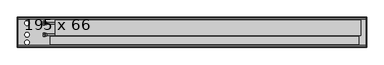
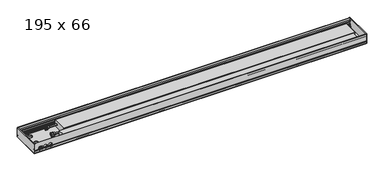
"""IFC4 building model written with IfcOpenShell, lengths in millimetres: proxy geometry, Mohlenhof_Внутрипольный конвектор_QSKM : 195 x 66."""

from ifc_helpers import new_model, si_unit, point, frame, frame_2d, origin, place, context, project, spatial, polyline, circle_curve, ellipse_curve, trimmed, segment, composite_curve, outline, extrude, source, transform, mapped, element, save
from ifc_brep_helpers import plane_surface, cylinder_surface, revolved_surface, advanced_brep


def proxy_195_x_66_aa6f77ee(model_context):
    return source(origin(), model_context, "Body", "SolidModel", [
        extrude(outline(composite_curve([segment(trimmed(circle_curve(frame_2d((0.0, -273.5)), 4.5), [point((-4.5, -273.5))], [point((4.5, -273.5))], False, "CARTESIAN"), True, "CONTINUOUS"), segment(trimmed(circle_curve(frame_2d((0.0, -273.5)), 4.5), [point((4.5, -273.5))], [point((-4.5, -273.5))], False, "CARTESIAN"), True, "CONTINUOUS")], self_intersect=False)), frame((0.0, 0.0, -79.0), z_axis=(0.0, 0.0, 1.0), x_axis=(1.0, 0.0, 0.0)), (0.0, 0.0, 1.0), 7.0),
        extrude(outline(composite_curve([segment(trimmed(circle_curve(frame_2d((0.0, -273.5)), 4.0), [point((-4.0, -273.5))], [point((4.0, -273.5))], False, "CARTESIAN"), True, "CONTINUOUS"), segment(trimmed(circle_curve(frame_2d((0.0, -273.5)), 4.0), [point((4.0, -273.5))], [point((-4.0, -273.5))], False, "CARTESIAN"), True, "CONTINUOUS")], self_intersect=False)), frame((0.0, 0.0, -72.0), z_axis=(0.0, 0.0, 1.0), x_axis=(1.0, 0.0, 0.0)), (0.0, 0.0, 1.0), 1.5),
        extrude(outline(composite_curve([segment(trimmed(circle_curve(frame_2d((0.0, -121.5)), 4.5), [point((-4.5, -121.5))], [point((4.5, -121.5))], False, "CARTESIAN"), True, "CONTINUOUS"), segment(trimmed(circle_curve(frame_2d((0.0, -121.5)), 4.5), [point((4.5, -121.5))], [point((-4.5, -121.5))], False, "CARTESIAN"), True, "CONTINUOUS")], self_intersect=False)), frame((0.0, 0.0, -79.0), z_axis=(0.0, 0.0, 1.0), x_axis=(1.0, 0.0, 0.0)), (0.0, 0.0, 1.0), 7.0),
        extrude(outline(composite_curve([segment(trimmed(circle_curve(frame_2d((0.0, -121.5)), 4.0), [point((-4.0, -121.5))], [point((4.0, -121.5))], False, "CARTESIAN"), True, "CONTINUOUS"), segment(trimmed(circle_curve(frame_2d((0.0, -121.5)), 4.0), [point((4.0, -121.5))], [point((-4.0, -121.5))], False, "CARTESIAN"), True, "CONTINUOUS")], self_intersect=False)), frame((0.0, 0.0, -72.0), z_axis=(0.0, 0.0, 1.0), x_axis=(1.0, 0.0, 0.0)), (0.0, 0.0, 1.0), 1.5),
        advanced_brep(
        [(-949.0, -213.0, -41.0), (-949.0, -201.0, -41.0), (-949.0, -225.0, -41.0), (-936.5, -220.5, -41.0), (-936.5, -205.5, -41.0), (-936.5, -213.0, -41.0), (-944.0, -220.5, -41.0), (-944.0, -205.5, -41.0)],
        [
            (0, 1),
            (1, 2, circle_curve(frame((-949.0, -213.0, -41.0), z_axis=(-1.0, 0.0, 0.0), x_axis=(0.0, 1.0, 0.0)), 12.0)),
            (2, 0),
            (2, 1, circle_curve(frame((-949.0, -213.0, -41.0), z_axis=(-1.0, 0.0, 0.0), x_axis=(0.0, 1.0, 0.0)), 12.0)),
            (3, 4, circle_curve(frame((-936.5, -213.0, -41.0), z_axis=(1.0, 0.0, 0.0), x_axis=(0.0, 1.0, 0.0)), 7.5)),
            (4, 5),
            (5, 3),
            (4, 3, circle_curve(frame((-936.5, -213.0, -41.0), z_axis=(1.0, 0.0, 0.0), x_axis=(0.0, 1.0, 0.0)), 7.5)),
            (6, 7, circle_curve(frame((-944.0, -213.0, -41.0), z_axis=(1.0, 0.0, 0.0), x_axis=(0.0, 1.0, 0.0)), 7.5)),
            (7, 4),
            (3, 6),
            (7, 6, circle_curve(frame((-944.0, -213.0, -41.0), z_axis=(1.0, 0.0, 0.0), x_axis=(0.0, 1.0, 0.0)), 7.5)),
            (1, 7),
            (6, 2),
        ],
        [
            plane_surface(frame((-949.0, -213.0, -41.0), z_axis=(-1.0, 0.0, 0.0), x_axis=(0.0, 1.0, 0.0))),
            plane_surface(frame((-936.5, -213.0, -41.0), z_axis=(1.0, 0.0, 0.0), x_axis=(0.0, 1.0, 0.0))),
            cylinder_surface(frame((-949.0, -213.0, -41.0), z_axis=(-1.0, 0.0, 0.0), x_axis=(0.0, 1.0, 0.0)), 7.5),
            revolved_surface(polyline([(-944.0, -205.5, -41.0), (-949.0, -201.0, -41.0)]), (-949.0, -213.0, -41.0), (-1.0, 0.0, 0.0)),
        ],
        [
            (0, [[1, 2, 3]]),
            (0, [[-3, 4, -1]]),
            (1, [[5, 6, 7]]),
            (1, [[8, -7, -6]]),
            (2, [[9, 10, -5, 11]]),
            (2, [[12, -11, -8, -10]]),
            (3, [[-2, 13, -9, 14]]),
            (3, [[-4, -14, -12, -13]]),
        ],
    ),
        extrude(outline(polyline([(-213.0, -27.1435935), (-201.0, -34.0717968), (-201.0, -47.9282032), (-213.0, -54.8564065), (-225.0, -47.9282032), (-225.0, -34.0717968), (-213.0, -27.1435935)]), holes=[composite_curve([segment(trimmed(circle_curve(frame_2d((-213.0, -41.0)), 8.5), [point((-204.5, -41.0))], [point((-221.5, -41.0))], True, "CARTESIAN"), True, "CONTINUOUS"), segment(trimmed(circle_curve(frame_2d((-213.0, -41.0)), 8.5), [point((-221.5, -41.0))], [point((-204.5, -41.0))], True, "CARTESIAN"), True, "CONTINUOUS")], self_intersect=False)]), frame((-960.0, 0.0, 0.0), z_axis=(1.0, 0.0, 0.0), x_axis=(0.0, 1.0, 0.0)), (0.0, 0.0, 1.0), 11.0),
        advanced_brep(
        [(-949.0, -138.0, -41.0), (-949.0, -126.0, -41.0), (-949.0, -150.0, -41.0), (-936.5, -145.5, -41.0), (-936.5, -130.5, -41.0), (-936.5, -138.0, -41.0), (-944.0, -145.5, -41.0), (-944.0, -130.5, -41.0)],
        [
            (0, 1),
            (1, 2, circle_curve(frame((-949.0, -138.0, -41.0), z_axis=(-1.0, 0.0, 0.0), x_axis=(0.0, 1.0, 0.0)), 12.0)),
            (2, 0),
            (2, 1, circle_curve(frame((-949.0, -138.0, -41.0), z_axis=(-1.0, 0.0, 0.0), x_axis=(0.0, 1.0, 0.0)), 12.0)),
            (3, 4, circle_curve(frame((-936.5, -138.0, -41.0), z_axis=(1.0, 0.0, 0.0), x_axis=(0.0, 1.0, 0.0)), 7.5)),
            (4, 5),
            (5, 3),
            (4, 3, circle_curve(frame((-936.5, -138.0, -41.0), z_axis=(1.0, 0.0, 0.0), x_axis=(0.0, 1.0, 0.0)), 7.5)),
            (6, 7, circle_curve(frame((-944.0, -138.0, -41.0), z_axis=(1.0, 0.0, 0.0), x_axis=(0.0, 1.0, 0.0)), 7.5)),
            (7, 4),
            (3, 6),
            (7, 6, circle_curve(frame((-944.0, -138.0, -41.0), z_axis=(1.0, 0.0, 0.0), x_axis=(0.0, 1.0, 0.0)), 7.5)),
            (1, 7),
            (6, 2),
        ],
        [
            plane_surface(frame((-949.0, -138.0, -41.0), z_axis=(-1.0, 0.0, 0.0), x_axis=(0.0, 1.0, 0.0))),
            plane_surface(frame((-936.5, -138.0, -41.0), z_axis=(1.0, 0.0, 0.0), x_axis=(0.0, 1.0, 0.0))),
            cylinder_surface(frame((-949.0, -138.0, -41.0), z_axis=(-1.0, 0.0, 0.0), x_axis=(0.0, 1.0, 0.0)), 7.5),
            revolved_surface(polyline([(-944.0, -130.5, -41.0), (-949.0, -126.0, -41.0)]), (-949.0, -138.0, -41.0), (-1.0, 0.0, 0.0)),
        ],
        [
            (0, [[1, 2, 3]]),
            (0, [[-3, 4, -1]]),
            (1, [[5, 6, 7]]),
            (1, [[8, -7, -6]]),
            (2, [[9, 10, -5, 11]]),
            (2, [[12, -11, -8, -10]]),
            (3, [[-2, 13, -9, 14]]),
            (3, [[-4, -14, -12, -13]]),
        ],
    ),
        extrude(outline(polyline([(-138.0, -27.1435935), (-126.0, -34.0717968), (-126.0, -47.9282032), (-138.0, -54.8564065), (-150.0, -47.9282032), (-150.0, -34.0717968), (-138.0, -27.1435935)]), holes=[composite_curve([segment(trimmed(circle_curve(frame_2d((-138.0, -41.0)), 8.5), [point((-129.5, -41.0))], [point((-146.5, -41.0))], True, "CARTESIAN"), True, "CONTINUOUS"), segment(trimmed(circle_curve(frame_2d((-138.0, -41.0)), 8.5), [point((-146.5, -41.0))], [point((-129.5, -41.0))], True, "CARTESIAN"), True, "CONTINUOUS")], self_intersect=False)]), frame((-960.0, 0.0, 0.0), z_axis=(1.0, 0.0, 0.0), x_axis=(0.0, 1.0, 0.0)), (0.0, 0.0, 1.0), 11.0),
        extrude(outline(composite_curve([segment(trimmed(circle_curve(frame_2d((-1100.0, -273.5)), 4.5), [point((-1104.5, -273.5))], [point((-1095.5, -273.5))], False, "CARTESIAN"), True, "CONTINUOUS"), segment(trimmed(circle_curve(frame_2d((-1100.0, -273.5)), 4.5), [point((-1095.5, -273.5))], [point((-1104.5, -273.5))], False, "CARTESIAN"), True, "CONTINUOUS")], self_intersect=False)), frame((0.0, 0.0, -79.0), z_axis=(0.0, 0.0, 1.0), x_axis=(1.0, 0.0, 0.0)), (0.0, 0.0, 1.0), 7.0),
        extrude(outline(composite_curve([segment(trimmed(circle_curve(frame_2d((-1100.0, -273.5)), 4.0), [point((-1104.0, -273.5))], [point((-1096.0, -273.5))], False, "CARTESIAN"), True, "CONTINUOUS"), segment(trimmed(circle_curve(frame_2d((-1100.0, -273.5)), 4.0), [point((-1096.0, -273.5))], [point((-1104.0, -273.5))], False, "CARTESIAN"), True, "CONTINUOUS")], self_intersect=False)), frame((0.0, 0.0, -72.0), z_axis=(0.0, 0.0, 1.0), x_axis=(1.0, 0.0, 0.0)), (0.0, 0.0, 1.0), 1.5),
        extrude(outline(composite_curve([segment(trimmed(circle_curve(frame_2d((-1100.0, -121.5)), 4.5), [point((-1104.5, -121.5))], [point((-1095.5, -121.5))], False, "CARTESIAN"), True, "CONTINUOUS"), segment(trimmed(circle_curve(frame_2d((-1100.0, -121.5)), 4.5), [point((-1095.5, -121.5))], [point((-1104.5, -121.5))], False, "CARTESIAN"), True, "CONTINUOUS")], self_intersect=False)), frame((0.0, 0.0, -79.0), z_axis=(0.0, 0.0, 1.0), x_axis=(1.0, 0.0, 0.0)), (0.0, 0.0, 1.0), 7.0),
        extrude(outline(composite_curve([segment(trimmed(circle_curve(frame_2d((-1100.0, -121.5)), 4.0), [point((-1104.0, -121.5))], [point((-1096.0, -121.5))], False, "CARTESIAN"), True, "CONTINUOUS"), segment(trimmed(circle_curve(frame_2d((-1100.0, -121.5)), 4.0), [point((-1096.0, -121.5))], [point((-1104.0, -121.5))], False, "CARTESIAN"), True, "CONTINUOUS")], self_intersect=False)), frame((0.0, 0.0, -72.0), z_axis=(0.0, 0.0, 1.0), x_axis=(1.0, 0.0, 0.0)), (0.0, 0.0, 1.0), 1.5),
        extrude(outline(composite_curve([segment(trimmed(circle_curve(frame_2d((1100.0, -273.5)), 4.5), [point((1095.5, -273.5))], [point((1104.5, -273.5))], False, "CARTESIAN"), True, "CONTINUOUS"), segment(trimmed(circle_curve(frame_2d((1100.0, -273.5)), 4.5), [point((1104.5, -273.5))], [point((1095.5, -273.5))], False, "CARTESIAN"), True, "CONTINUOUS")], self_intersect=False)), frame((0.0, 0.0, -79.0), z_axis=(0.0, 0.0, 1.0), x_axis=(1.0, 0.0, 0.0)), (0.0, 0.0, 1.0), 7.0),
        extrude(outline(composite_curve([segment(trimmed(circle_curve(frame_2d((1100.0, -273.5)), 4.0), [point((1096.0, -273.5))], [point((1104.0, -273.5))], False, "CARTESIAN"), True, "CONTINUOUS"), segment(trimmed(circle_curve(frame_2d((1100.0, -273.5)), 4.0), [point((1104.0, -273.5))], [point((1096.0, -273.5))], False, "CARTESIAN"), True, "CONTINUOUS")], self_intersect=False)), frame((0.0, 0.0, -72.0), z_axis=(0.0, 0.0, 1.0), x_axis=(1.0, 0.0, 0.0)), (0.0, 0.0, 1.0), 1.5),
        extrude(outline(composite_curve([segment(trimmed(circle_curve(frame_2d((1100.0, -121.5)), 4.5), [point((1095.5, -121.5))], [point((1104.5, -121.5))], False, "CARTESIAN"), True, "CONTINUOUS"), segment(trimmed(circle_curve(frame_2d((1100.0, -121.5)), 4.5), [point((1104.5, -121.5))], [point((1095.5, -121.5))], False, "CARTESIAN"), True, "CONTINUOUS")], self_intersect=False)), frame((0.0, 0.0, -79.0), z_axis=(0.0, 0.0, 1.0), x_axis=(1.0, 0.0, 0.0)), (0.0, 0.0, 1.0), 7.0),
        extrude(outline(composite_curve([segment(trimmed(circle_curve(frame_2d((1100.0, -121.5)), 4.0), [point((1096.0, -121.5))], [point((1104.0, -121.5))], False, "CARTESIAN"), True, "CONTINUOUS"), segment(trimmed(circle_curve(frame_2d((1100.0, -121.5)), 4.0), [point((1104.0, -121.5))], [point((1096.0, -121.5))], False, "CARTESIAN"), True, "CONTINUOUS")], self_intersect=False)), frame((0.0, 0.0, -72.0), z_axis=(0.0, 0.0, 1.0), x_axis=(1.0, 0.0, 0.0)), (0.0, 0.0, 1.0), 1.5),
        extrude(outline(polyline([(1075.0, -225.87), (1075.0, -277.18), (-915.0, -277.18), (-915.0, -225.87), (1075.0, -225.87)])), frame((0.0, 0.0, -62.5), z_axis=(0.0, 0.0, 1.0), x_axis=(1.0, 0.0, 0.0)), (0.0, 0.0, 1.0), 43.62),
        extrude(outline(composite_curve([segment(trimmed(circle_curve(frame_2d((-213.0, -41.0)), 5.0), [point((-218.0, -41.0))], [point((-208.0, -41.0))], False, "CARTESIAN"), True, "CONTINUOUS"), segment(trimmed(circle_curve(frame_2d((-213.0, -41.0)), 5.0), [point((-208.0, -41.0))], [point((-218.0, -41.0))], False, "CARTESIAN"), True, "CONTINUOUS")], self_intersect=False)), frame((-960.0, 0.0, 0.0), z_axis=(1.0, 0.0, 0.0), x_axis=(0.0, 1.0, 0.0)), (0.0, 0.0, 1.0), 80.0),
        extrude(outline(composite_curve([segment(trimmed(circle_curve(frame_2d((-138.0, -41.0)), 5.0), [point((-143.0, -41.0))], [point((-133.0, -41.0))], False, "CARTESIAN"), True, "CONTINUOUS"), segment(trimmed(circle_curve(frame_2d((-138.0, -41.0)), 5.0), [point((-133.0, -41.0))], [point((-143.0, -41.0))], False, "CARTESIAN"), True, "CONTINUOUS")], self_intersect=False)), frame((-960.0, 0.0, 0.0), z_axis=(1.0, 0.0, 0.0), x_axis=(0.0, 1.0, 0.0)), (0.0, 0.0, 1.0), 80.0),
        advanced_brep(
        [(1123.0, -295.0, -48.5473602), (1123.0, -293.5, -49.2468216), (1123.0, -292.5, -49.2468216), (1123.0, -292.5, -46.0008038), (1123.0, -290.0, -46.0008038), (1123.0, -290.0, -56.5008038), (1123.0, -292.5, -56.5008038), (1123.0, -292.5, -53.2468216), (1123.0, -293.5, -53.2468216), (1123.0, -295.0, -53.9462831), (1123.0, -295.0, -66.5), (1123.0, -291.0, -66.5), (1123.0, -291.0, -65.2), (1123.0, -293.0, -65.2), (1123.0, -293.0, -62.5), (1123.0, -282.0, -62.5), (1123.0, -282.0, -54.9172677), (1123.0, -283.4172677, -53.5), (1123.0, -287.0, -53.5), (1123.0, -287.0, -45.91), (1123.0, -289.0, -43.91), (1123.0, -289.0, -39.5), (1123.0, -290.0, -39.5), (1123.0, -290.0, -43.5), (1123.0, -292.4956439, -43.5), (1123.0, -292.4956439, -23.0), (1123.0, -290.0, -23.0), (1123.0, -290.0, -27.0), (1123.0, -289.0, -27.0), (1123.0, -289.0, -17.0), (1123.0, -283.3956439, -17.0), (1123.0, -283.3956439, -15.0), (1123.0, -293.4, -15.0), (1123.0, -293.4, 0.0), (1123.0, -295.0, 0.0), (-1123.0, -295.0, -48.5473602), (-1123.0, -295.0, 0.0), (-1123.0, -293.4, 0.0), (-1123.0, -293.4, -15.0), (-1123.0, -283.3956439, -15.0), (-1123.0, -283.3956439, -17.0), (-1123.0, -289.0, -17.0), (-1123.0, -289.0, -27.0), (-1123.0, -290.0, -27.0), (-1123.0, -290.0, -23.0), (-1123.0, -292.4956439, -23.0), (-1123.0, -292.4956439, -43.5), (-1123.0, -290.0, -43.5), (-1123.0, -290.0, -39.5), (-1123.0, -289.0, -39.5), (-1123.0, -289.0, -43.91), (-1123.0, -287.0, -45.91), (-1123.0, -287.0, -53.5), (-1123.0, -283.4172677, -53.5), (-1123.0, -282.0, -54.9172677), (-1123.0, -282.0, -62.5), (-1123.0, -293.0, -62.5), (-1123.0, -293.0, -65.2), (-1123.0, -291.0, -65.2), (-1123.0, -291.0, -66.5), (-1123.0, -295.0, -66.5), (-1123.0, -295.0, -53.9462831), (-1123.0, -293.5, -53.2468216), (-1123.0, -292.5, -53.2468216), (-1123.0, -292.5, -56.5008038), (-1123.0, -290.0, -56.5008038), (-1123.0, -290.0, -46.0008038), (-1123.0, -292.5, -46.0008038), (-1123.0, -292.5, -49.2468216), (-1123.0, -293.5, -49.2468216), (-1003.7585985, -295.0, -48.5473602), (-1004.155283, -293.5, -49.2468216), (-1095.844717, -293.5, -49.2468216), (-1096.2414015, -295.0, -48.5473602), (-1063.2414015, -295.0, -48.5473602), (-1069.7585985, -295.0, -48.5473602), (-1070.155283, -293.5, -49.2468216), (-1062.844717, -293.5, -49.2468216), (-1030.2414015, -295.0, -48.5473602), (-1036.7585985, -295.0, -48.5473602), (-1037.155283, -293.5, -49.2468216), (-1029.844717, -293.5, -49.2468216), (-1004.155283, -292.5, -49.2468216), (-1095.844717, -292.5, -49.2468216), (-1070.155283, -292.5, -49.2468216), (-1062.844717, -292.5, -49.2468216), (-1037.155283, -292.5, -49.2468216), (-1029.844717, -292.5, -49.2468216), (-1002.6911648, -292.5, -46.0008038), (-1097.3088352, -292.5, -46.0008038), (-1068.6911648, -292.5, -46.0008038), (-1064.3088352, -292.5, -46.0008038), (-1035.6911648, -292.5, -46.0008038), (-1031.3088352, -292.5, -46.0008038), (-1002.6911648, -290.0, -46.0008038), (-1097.3088352, -290.0, -46.0008038), (-1068.6911648, -290.0, -46.0008038), (-1064.3088352, -290.0, -46.0008038), (-1035.6911648, -290.0, -46.0008038), (-1031.3088352, -290.0, -46.0008038), (-1092.328032, -292.5, -53.2468216), (-1073.671968, -292.5, -53.2468216), (-1059.328032, -292.5, -53.2468216), (-1040.671968, -292.5, -53.2468216), (-1026.328032, -292.5, -53.2468216), (-1007.671968, -292.5, -53.2468216), (-1007.671968, -293.5, -53.2468216), (-1092.328032, -293.5, -53.2468216), (-1073.671968, -293.5, -53.2468216), (-1059.328032, -293.5, -53.2468216), (-1040.671968, -293.5, -53.2468216), (-1026.328032, -293.5, -53.2468216), (-1008.6280208, -295.0, -53.9462831), (-1091.3719792, -295.0, -53.9462831), (-1074.6280208, -295.0, -53.9462831), (-1058.3719792, -295.0, -53.9462831), (-1041.6280208, -295.0, -53.9462831), (-1025.3719792, -295.0, -53.9462831), (-1089.7064841, -282.0, -54.9172677), (-1076.2935159, -282.0, -54.9172677), (-1056.7064841, -282.0, -54.9172677), (-1043.2935159, -282.0, -54.9172677), (-1023.7064841, -282.0, -54.9172677), (-1010.2935159, -282.0, -54.9172677), (-1008.0, -283.4172677, -53.5), (-1092.0, -283.4172677, -53.5), (-1074.0, -283.4172677, -53.5), (-1059.0, -283.4172677, -53.5), (-1041.0, -283.4172677, -53.5), (-1026.0, -283.4172677, -53.5), (-1008.0, -287.0, -53.5), (-1092.0, -287.0, -53.5), (-1074.0, -287.0, -53.5), (-1059.0, -287.0, -53.5), (-1041.0, -287.0, -53.5), (-1026.0, -287.0, -53.5), (-1002.6629187, -287.0, -45.91), (-1097.3370813, -287.0, -45.91), (-1068.6629187, -287.0, -45.91), (-1064.3370813, -287.0, -45.91), (-1035.6629187, -287.0, -45.91), (-1031.3370813, -287.0, -45.91), (-1002.1948691, -289.0, -43.91), (-1097.8051309, -289.0, -43.91), (-1068.1948691, -289.0, -43.91), (-1064.8051309, -289.0, -43.91), (-1035.1948691, -289.0, -43.91), (-1031.8051309, -289.0, -43.91), (-1002.0, -289.0, -41.5), (-1002.1339313, -289.0, -39.5), (-1097.8660687, -289.0, -39.5), (-1098.0, -289.0, -41.5), (-1068.0, -289.0, -41.5), (-1068.1339313, -289.0, -39.5), (-1064.8660687, -289.0, -39.5), (-1065.0, -289.0, -41.5), (-1035.0, -289.0, -41.5), (-1035.1339313, -289.0, -39.5), (-1031.8660687, -289.0, -39.5), (-1032.0, -289.0, -41.5), (-1002.1339313, -290.0, -39.5), (-1097.8660687, -290.0, -39.5), (-1068.1339313, -290.0, -39.5), (-1064.8660687, -290.0, -39.5), (-1035.1339313, -290.0, -39.5), (-1031.8660687, -290.0, -39.5), (-1002.0, -290.0, -41.5), (-1002.1339313, -290.0, -43.5), (-1097.8660687, -290.0, -43.5), (-1098.0, -290.0, -41.5), (-1068.0, -290.0, -41.5), (-1068.1339313, -290.0, -43.5), (-1064.8660687, -290.0, -43.5), (-1065.0, -290.0, -41.5), (-1035.0, -290.0, -41.5), (-1035.1339313, -290.0, -43.5), (-1031.8660687, -290.0, -43.5), (-1032.0, -290.0, -41.5), (-1002.1339313, -292.4956439, -43.5), (-1097.8660687, -292.4956439, -43.5), (-1068.1339313, -292.4956439, -43.5), (-1064.8660687, -292.4956439, -43.5), (-1035.1339313, -292.4956439, -43.5), (-1031.8660687, -292.4956439, -43.5), (-1002.0, -292.4956439, -41.5), (-1032.0, -292.4956439, -41.5), (-1035.0, -292.4956439, -41.5), (-1065.0, -292.4956439, -41.5), (-1068.0, -292.4956439, -41.5), (-1098.0, -292.4956439, -41.5), (-1086.8405729, -290.0, -27.0), (-1079.1594271, -290.0, -27.0), (-1053.8405729, -290.0, -27.0), (-1046.1594271, -290.0, -27.0), (-1020.8405729, -290.0, -27.0), (-1013.1594271, -290.0, -27.0), (-1013.1594271, -289.0, -27.0), (-1086.8405729, -289.0, -27.0), (-1079.1594271, -289.0, -27.0), (-1053.8405729, -289.0, -27.0), (-1046.1594271, -289.0, -27.0), (-1020.8405729, -289.0, -27.0), (-1098.0, -295.0, -41.5), (-1068.0, -295.0, -41.5), (-1065.0, -295.0, -41.5), (-1035.0, -295.0, -41.5), (-1032.0, -295.0, -41.5), (-1002.0, -295.0, -41.5)],
        [
            (0, 1),
            (1, 2),
            (2, 3),
            (3, 4),
            (4, 5),
            (5, 6),
            (6, 7),
            (7, 8),
            (8, 9),
            (9, 10),
            (10, 11),
            (11, 12),
            (12, 13),
            (13, 14),
            (14, 15),
            (15, 16),
            (16, 17),
            (17, 18),
            (18, 19),
            (19, 20),
            (20, 21),
            (21, 22),
            (22, 23),
            (23, 24),
            (24, 25),
            (25, 26),
            (26, 27),
            (27, 28),
            (28, 29),
            (29, 30),
            (30, 31),
            (31, 32),
            (32, 33),
            (33, 34),
            (34, 0),
            (35, 36),
            (36, 37),
            (37, 38),
            (38, 39),
            (39, 40),
            (40, 41),
            (41, 42),
            (42, 43),
            (43, 44),
            (44, 45),
            (45, 46),
            (46, 47),
            (47, 48),
            (48, 49),
            (49, 50),
            (50, 51),
            (51, 52),
            (52, 53),
            (53, 54),
            (54, 55),
            (55, 56),
            (56, 57),
            (57, 58),
            (58, 59),
            (59, 60),
            (60, 61),
            (61, 62),
            (62, 63),
            (63, 64),
            (64, 65),
            (65, 66),
            (66, 67),
            (67, 68),
            (68, 69),
            (69, 35),
            (0, 70),
            (70, 71, ellipse_curve(frame((-1017.0, -310.1131126, -41.5), z_axis=(0.0, 0.42261826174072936, 0.9063077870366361), x_axis=(0.0, -0.906307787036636, 0.4226182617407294)), 35.4930237, 15.0)),
            (71, 1),
            (69, 72),
            (72, 73, ellipse_curve(frame((-1083.0, -310.1131126, -41.5), z_axis=(0.0, 0.42261826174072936, 0.9063077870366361), x_axis=(0.0, -0.906307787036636, 0.4226182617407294)), 35.4930237, 15.0)),
            (73, 35),
            (74, 75),
            (75, 76, ellipse_curve(frame((-1083.0, -310.1131126, -41.5), z_axis=(0.0, 0.42261826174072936, 0.9063077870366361), x_axis=(0.0, -0.906307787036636, 0.4226182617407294)), 35.4930237, 15.0)),
            (76, 77),
            (77, 74, ellipse_curve(frame((-1050.0, -310.1131126, -41.5), z_axis=(0.0, 0.42261826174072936, 0.9063077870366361), x_axis=(0.0, -0.906307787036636, 0.4226182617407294)), 35.4930237, 15.0)),
            (78, 79),
            (79, 80, ellipse_curve(frame((-1050.0, -310.1131126, -41.5), z_axis=(0.0, 0.42261826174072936, 0.9063077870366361), x_axis=(0.0, -0.906307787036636, 0.4226182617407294)), 35.4930237, 15.0)),
            (80, 81),
            (81, 78, ellipse_curve(frame((-1017.0, -310.1131126, -41.5), z_axis=(0.0, 0.42261826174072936, 0.9063077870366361), x_axis=(0.0, -0.906307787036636, 0.4226182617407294)), 35.4930237, 15.0)),
            (71, 82),
            (82, 2),
            (68, 83),
            (83, 72),
            (76, 84),
            (84, 85),
            (85, 77),
            (80, 86),
            (86, 87),
            (87, 81),
            (82, 88, circle_curve(frame((-1017.0, -292.5, -41.5), z_axis=(0.0, -1.0, 0.0), x_axis=(1.0, 0.0, 0.0)), 15.0)),
            (88, 3),
            (67, 89),
            (89, 83, circle_curve(frame((-1083.0, -292.5, -41.5), z_axis=(0.0, -1.0, 0.0), x_axis=(1.0, 0.0, 0.0)), 15.0)),
            (84, 90, circle_curve(frame((-1083.0, -292.5, -41.5), z_axis=(0.0, -1.0, 0.0), x_axis=(1.0, 0.0, 0.0)), 15.0)),
            (90, 91),
            (91, 85, circle_curve(frame((-1050.0, -292.5, -41.5), z_axis=(0.0, -1.0, 0.0), x_axis=(1.0, 0.0, 0.0)), 15.0)),
            (86, 92, circle_curve(frame((-1050.0, -292.5, -41.5), z_axis=(0.0, -1.0, 0.0), x_axis=(1.0, 0.0, 0.0)), 15.0)),
            (92, 93),
            (93, 87, circle_curve(frame((-1017.0, -292.5, -41.5), z_axis=(0.0, -1.0, 0.0), x_axis=(1.0, 0.0, 0.0)), 15.0)),
            (88, 94),
            (94, 4),
            (66, 95),
            (95, 89),
            (90, 96),
            (96, 97),
            (97, 91),
            (92, 98),
            (98, 99),
            (99, 93),
            (94, 99, circle_curve(frame((-1017.0, -290.0, -41.5), z_axis=(0.0, 1.0, 0.0), x_axis=(1.0, 0.0, 0.0)), 15.0)),
            (98, 97, circle_curve(frame((-1050.0, -290.0, -41.5), z_axis=(0.0, 1.0, 0.0), x_axis=(1.0, 0.0, 0.0)), 15.0)),
            (96, 95, circle_curve(frame((-1083.0, -290.0, -41.5), z_axis=(0.0, 1.0, 0.0), x_axis=(1.0, 0.0, 0.0)), 15.0)),
            (65, 5),
            (64, 6),
            (63, 100),
            (100, 101, circle_curve(frame((-1083.0, -292.5, -41.5), z_axis=(0.0, -1.0, 0.0), x_axis=(1.0, 0.0, 0.0)), 15.0)),
            (101, 102),
            (102, 103, circle_curve(frame((-1050.0, -292.5, -41.5), z_axis=(0.0, -1.0, 0.0), x_axis=(1.0, 0.0, 0.0)), 15.0)),
            (103, 104),
            (104, 105, circle_curve(frame((-1017.0, -292.5, -41.5), z_axis=(0.0, -1.0, 0.0), x_axis=(1.0, 0.0, 0.0)), 15.0)),
            (105, 7),
            (105, 106),
            (106, 8),
            (62, 107),
            (107, 100),
            (101, 108),
            (108, 109),
            (109, 102),
            (103, 110),
            (110, 111),
            (111, 104),
            (106, 112, ellipse_curve(frame((-1017.0, -268.3088597, -41.5), z_axis=(0.0, 0.4226182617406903, -0.9063077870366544), x_axis=(0.0, -0.9063077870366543, -0.42261826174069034)), 35.4930237, 15.0)),
            (112, 9),
            (61, 113),
            (113, 107, ellipse_curve(frame((-1083.0, -268.3088597, -41.5), z_axis=(0.0, 0.4226182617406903, -0.9063077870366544), x_axis=(0.0, -0.9063077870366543, -0.42261826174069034)), 35.4930237, 15.0)),
            (108, 114, ellipse_curve(frame((-1083.0, -268.3088597, -41.5), z_axis=(0.0, 0.4226182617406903, -0.9063077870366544), x_axis=(0.0, -0.9063077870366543, -0.42261826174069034)), 35.4930237, 15.0)),
            (114, 115),
            (115, 109, ellipse_curve(frame((-1050.0, -268.3088597, -41.5), z_axis=(0.0, 0.4226182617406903, -0.9063077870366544), x_axis=(0.0, -0.9063077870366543, -0.42261826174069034)), 35.4930237, 15.0)),
            (110, 116, ellipse_curve(frame((-1050.0, -268.3088597, -41.5), z_axis=(0.0, 0.4226182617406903, -0.9063077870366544), x_axis=(0.0, -0.9063077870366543, -0.42261826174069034)), 35.4930237, 15.0)),
            (116, 117),
            (117, 111, ellipse_curve(frame((-1017.0, -268.3088597, -41.5), z_axis=(0.0, 0.4226182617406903, -0.9063077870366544), x_axis=(0.0, -0.9063077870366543, -0.42261826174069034)), 35.4930237, 15.0)),
            (112, 117, circle_curve(frame((-1017.0, -295.0, -41.5), z_axis=(0.0, 1.0, 0.0), x_axis=(1.0, 0.0, 0.0)), 15.0)),
            (116, 115, circle_curve(frame((-1050.0, -295.0, -41.5), z_axis=(0.0, 1.0, 0.0), x_axis=(1.0, 0.0, 0.0)), 15.0)),
            (114, 113, circle_curve(frame((-1083.0, -295.0, -41.5), z_axis=(0.0, 1.0, 0.0), x_axis=(1.0, 0.0, 0.0)), 15.0)),
            (60, 10),
            (59, 11),
            (58, 12),
            (57, 13),
            (56, 14),
            (55, 15),
            (54, 118),
            (118, 119, circle_curve(frame((-1083.0, -282.0, -41.5), z_axis=(0.0, -1.0, 0.0), x_axis=(1.0, 0.0, 0.0)), 15.0)),
            (119, 120),
            (120, 121, circle_curve(frame((-1050.0, -282.0, -41.5), z_axis=(0.0, -1.0, 0.0), x_axis=(1.0, 0.0, 0.0)), 15.0)),
            (121, 122),
            (122, 123, circle_curve(frame((-1017.0, -282.0, -41.5), z_axis=(0.0, -1.0, 0.0), x_axis=(1.0, 0.0, 0.0)), 15.0)),
            (123, 16),
            (123, 124, ellipse_curve(frame((-1017.0, -295.4172677, -41.5), z_axis=(0.0, -0.7071067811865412, -0.7071067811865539), x_axis=(0.0, -0.7071067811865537, 0.7071067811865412)), 21.2132034, 15.0)),
            (124, 17),
            (53, 125),
            (125, 118, ellipse_curve(frame((-1083.0, -295.4172677, -41.5), z_axis=(0.0, -0.7071067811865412, -0.7071067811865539), x_axis=(0.0, -0.7071067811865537, 0.7071067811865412)), 21.2132034, 15.0)),
            (119, 126, ellipse_curve(frame((-1083.0, -295.4172677, -41.5), z_axis=(0.0, -0.7071067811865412, -0.7071067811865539), x_axis=(0.0, -0.7071067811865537, 0.7071067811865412)), 21.2132034, 15.0)),
            (126, 127),
            (127, 120, ellipse_curve(frame((-1050.0, -295.4172677, -41.5), z_axis=(0.0, -0.7071067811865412, -0.7071067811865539), x_axis=(0.0, -0.7071067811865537, 0.7071067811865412)), 21.2132034, 15.0)),
            (121, 128, ellipse_curve(frame((-1050.0, -295.4172677, -41.5), z_axis=(0.0, -0.7071067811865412, -0.7071067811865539), x_axis=(0.0, -0.7071067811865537, 0.7071067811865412)), 21.2132034, 15.0)),
            (128, 129),
            (129, 122, ellipse_curve(frame((-1017.0, -295.4172677, -41.5), z_axis=(0.0, -0.7071067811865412, -0.7071067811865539), x_axis=(0.0, -0.7071067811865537, 0.7071067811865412)), 21.2132034, 15.0)),
            (124, 130),
            (130, 18),
            (52, 131),
            (131, 125),
            (126, 132),
            (132, 133),
            (133, 127),
            (128, 134),
            (134, 135),
            (135, 129),
            (130, 136, circle_curve(frame((-1017.0, -287.0, -41.5), z_axis=(0.0, -1.0, 0.0), x_axis=(1.0, 0.0, 0.0)), 15.0)),
            (136, 19),
            (51, 137),
            (137, 131, circle_curve(frame((-1083.0, -287.0, -41.5), z_axis=(0.0, -1.0, 0.0), x_axis=(1.0, 0.0, 0.0)), 15.0)),
            (132, 138, circle_curve(frame((-1083.0, -287.0, -41.5), z_axis=(0.0, -1.0, 0.0), x_axis=(1.0, 0.0, 0.0)), 15.0)),
            (138, 139),
            (139, 133, circle_curve(frame((-1050.0, -287.0, -41.5), z_axis=(0.0, -1.0, 0.0), x_axis=(1.0, 0.0, 0.0)), 15.0)),
            (134, 140, circle_curve(frame((-1050.0, -287.0, -41.5), z_axis=(0.0, -1.0, 0.0), x_axis=(1.0, 0.0, 0.0)), 15.0)),
            (140, 141),
            (141, 135, circle_curve(frame((-1017.0, -287.0, -41.5), z_axis=(0.0, -1.0, 0.0), x_axis=(1.0, 0.0, 0.0)), 15.0)),
            (136, 142, ellipse_curve(frame((-1017.0, -291.41, -41.5), z_axis=(0.0, -0.7071067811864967, -0.7071067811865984), x_axis=(0.0, -0.7071067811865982, 0.7071067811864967)), 21.2132034, 15.0)),
            (142, 20),
            (50, 143),
            (143, 137, ellipse_curve(frame((-1083.0, -291.41, -41.5), z_axis=(0.0, -0.7071067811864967, -0.7071067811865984), x_axis=(0.0, -0.7071067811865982, 0.7071067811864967)), 21.2132034, 15.0)),
            (138, 144, ellipse_curve(frame((-1083.0, -291.41, -41.5), z_axis=(0.0, -0.7071067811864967, -0.7071067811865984), x_axis=(0.0, -0.7071067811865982, 0.7071067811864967)), 21.2132034, 15.0)),
            (144, 145),
            (145, 139, ellipse_curve(frame((-1050.0, -291.41, -41.5), z_axis=(0.0, -0.7071067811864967, -0.7071067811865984), x_axis=(0.0, -0.7071067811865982, 0.7071067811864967)), 21.2132034, 15.0)),
            (140, 146, ellipse_curve(frame((-1050.0, -291.41, -41.5), z_axis=(0.0, -0.7071067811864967, -0.7071067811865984), x_axis=(0.0, -0.7071067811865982, 0.7071067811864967)), 21.2132034, 15.0)),
            (146, 147),
            (147, 141, ellipse_curve(frame((-1017.0, -291.41, -41.5), z_axis=(0.0, -0.7071067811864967, -0.7071067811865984), x_axis=(0.0, -0.7071067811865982, 0.7071067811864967)), 21.2132034, 15.0)),
            (142, 148, circle_curve(frame((-1017.0, -289.0, -41.5), z_axis=(0.0, -1.0, 0.0), x_axis=(1.0, 0.0, 0.0)), 15.0)),
            (148, 149, circle_curve(frame((-1017.0, -289.0, -41.5), z_axis=(0.0, -1.0, 0.0), x_axis=(1.0, 0.0, 0.0)), 15.0)),
            (149, 21),
            (49, 150),
            (150, 151, circle_curve(frame((-1083.0, -289.0, -41.5), z_axis=(0.0, -1.0, 0.0), x_axis=(1.0, 0.0, 0.0)), 15.0)),
            (151, 143, circle_curve(frame((-1083.0, -289.0, -41.5), z_axis=(0.0, -1.0, 0.0), x_axis=(1.0, 0.0, 0.0)), 15.0)),
            (144, 152, circle_curve(frame((-1083.0, -289.0, -41.5), z_axis=(0.0, -1.0, 0.0), x_axis=(1.0, 0.0, 0.0)), 15.0)),
            (152, 153, circle_curve(frame((-1083.0, -289.0, -41.5), z_axis=(0.0, -1.0, 0.0), x_axis=(1.0, 0.0, 0.0)), 15.0)),
            (153, 154),
            (154, 155, circle_curve(frame((-1050.0, -289.0, -41.5), z_axis=(0.0, -1.0, 0.0), x_axis=(1.0, 0.0, 0.0)), 15.0)),
            (155, 145, circle_curve(frame((-1050.0, -289.0, -41.5), z_axis=(0.0, -1.0, 0.0), x_axis=(1.0, 0.0, 0.0)), 15.0)),
            (146, 156, circle_curve(frame((-1050.0, -289.0, -41.5), z_axis=(0.0, -1.0, 0.0), x_axis=(1.0, 0.0, 0.0)), 15.0)),
            (156, 157, circle_curve(frame((-1050.0, -289.0, -41.5), z_axis=(0.0, -1.0, 0.0), x_axis=(1.0, 0.0, 0.0)), 15.0)),
            (157, 158),
            (158, 159, circle_curve(frame((-1017.0, -289.0, -41.5), z_axis=(0.0, -1.0, 0.0), x_axis=(1.0, 0.0, 0.0)), 15.0)),
            (159, 147, circle_curve(frame((-1017.0, -289.0, -41.5), z_axis=(0.0, -1.0, 0.0), x_axis=(1.0, 0.0, 0.0)), 15.0)),
            (149, 160),
            (160, 22),
            (48, 161),
            (161, 150),
            (153, 162),
            (162, 163),
            (163, 154),
            (157, 164),
            (164, 165),
            (165, 158),
            (160, 166, circle_curve(frame((-1017.0, -290.0, -41.5), z_axis=(0.0, 1.0, 0.0), x_axis=(1.0, 0.0, 0.0)), 15.0)),
            (166, 167, circle_curve(frame((-1017.0, -290.0, -41.5), z_axis=(0.0, 1.0, 0.0), x_axis=(1.0, 0.0, 0.0)), 15.0)),
            (167, 23),
            (47, 168),
            (168, 169, circle_curve(frame((-1083.0, -290.0, -41.5), z_axis=(0.0, 1.0, 0.0), x_axis=(1.0, 0.0, 0.0)), 15.0)),
            (169, 161, circle_curve(frame((-1083.0, -290.0, -41.5), z_axis=(0.0, 1.0, 0.0), x_axis=(1.0, 0.0, 0.0)), 15.0)),
            (162, 170, circle_curve(frame((-1083.0, -290.0, -41.5), z_axis=(0.0, 1.0, 0.0), x_axis=(1.0, 0.0, 0.0)), 15.0)),
            (170, 171, circle_curve(frame((-1083.0, -290.0, -41.5), z_axis=(0.0, 1.0, 0.0), x_axis=(1.0, 0.0, 0.0)), 15.0)),
            (171, 172),
            (172, 173, circle_curve(frame((-1050.0, -290.0, -41.5), z_axis=(0.0, 1.0, 0.0), x_axis=(1.0, 0.0, 0.0)), 15.0)),
            (173, 163, circle_curve(frame((-1050.0, -290.0, -41.5), z_axis=(0.0, 1.0, 0.0), x_axis=(1.0, 0.0, 0.0)), 15.0)),
            (164, 174, circle_curve(frame((-1050.0, -290.0, -41.5), z_axis=(0.0, 1.0, 0.0), x_axis=(1.0, 0.0, 0.0)), 15.0)),
            (174, 175, circle_curve(frame((-1050.0, -290.0, -41.5), z_axis=(0.0, 1.0, 0.0), x_axis=(1.0, 0.0, 0.0)), 15.0)),
            (175, 176),
            (176, 177, circle_curve(frame((-1017.0, -290.0, -41.5), z_axis=(0.0, 1.0, 0.0), x_axis=(1.0, 0.0, 0.0)), 15.0)),
            (177, 165, circle_curve(frame((-1017.0, -290.0, -41.5), z_axis=(0.0, 1.0, 0.0), x_axis=(1.0, 0.0, 0.0)), 15.0)),
            (167, 178),
            (178, 24),
            (46, 179),
            (179, 168),
            (171, 180),
            (180, 181),
            (181, 172),
            (175, 182),
            (182, 183),
            (183, 176),
            (178, 184, circle_curve(frame((-1017.0, -292.4956439, -41.5), z_axis=(0.0, -1.0, 0.0), x_axis=(1.0, 0.0, 0.0)), 15.0)),
            (184, 185, circle_curve(frame((-1017.0, -292.4956439, -41.5), z_axis=(0.0, -1.0, 0.0), x_axis=(1.0, 0.0, 0.0)), 15.0)),
            (185, 183, circle_curve(frame((-1017.0, -292.4956439, -41.5), z_axis=(0.0, -1.0, 0.0), x_axis=(1.0, 0.0, 0.0)), 15.0)),
            (182, 186, circle_curve(frame((-1050.0, -292.4956439, -41.5), z_axis=(0.0, -1.0, 0.0), x_axis=(1.0, 0.0, 0.0)), 15.0)),
            (186, 187, circle_curve(frame((-1050.0, -292.4956439, -41.5), z_axis=(0.0, -1.0, 0.0), x_axis=(1.0, 0.0, 0.0)), 15.0)),
            (187, 181, circle_curve(frame((-1050.0, -292.4956439, -41.5), z_axis=(0.0, -1.0, 0.0), x_axis=(1.0, 0.0, 0.0)), 15.0)),
            (180, 188, circle_curve(frame((-1083.0, -292.4956439, -41.5), z_axis=(0.0, -1.0, 0.0), x_axis=(1.0, 0.0, 0.0)), 15.0)),
            (188, 189, circle_curve(frame((-1083.0, -292.4956439, -41.5), z_axis=(0.0, -1.0, 0.0), x_axis=(1.0, 0.0, 0.0)), 15.0)),
            (189, 179, circle_curve(frame((-1083.0, -292.4956439, -41.5), z_axis=(0.0, -1.0, 0.0), x_axis=(1.0, 0.0, 0.0)), 15.0)),
            (45, 25),
            (44, 26),
            (43, 190),
            (190, 191, circle_curve(frame((-1083.0, -290.0, -41.5), z_axis=(0.0, 1.0, 0.0), x_axis=(1.0, 0.0, 0.0)), 15.0)),
            (191, 192),
            (192, 193, circle_curve(frame((-1050.0, -290.0, -41.5), z_axis=(0.0, 1.0, 0.0), x_axis=(1.0, 0.0, 0.0)), 15.0)),
            (193, 194),
            (194, 195, circle_curve(frame((-1017.0, -290.0, -41.5), z_axis=(0.0, 1.0, 0.0), x_axis=(1.0, 0.0, 0.0)), 15.0)),
            (195, 27),
            (195, 196),
            (196, 28),
            (42, 197),
            (197, 190),
            (191, 198),
            (198, 199),
            (199, 192),
            (193, 200),
            (200, 201),
            (201, 194),
            (196, 201, circle_curve(frame((-1017.0, -289.0, -41.5), z_axis=(0.0, -1.0, 0.0), x_axis=(1.0, 0.0, 0.0)), 15.0)),
            (200, 199, circle_curve(frame((-1050.0, -289.0, -41.5), z_axis=(0.0, -1.0, 0.0), x_axis=(1.0, 0.0, 0.0)), 15.0)),
            (198, 197, circle_curve(frame((-1083.0, -289.0, -41.5), z_axis=(0.0, -1.0, 0.0), x_axis=(1.0, 0.0, 0.0)), 15.0)),
            (41, 29),
            (40, 30),
            (39, 31),
            (38, 32),
            (37, 33),
            (36, 34),
            (73, 202, circle_curve(frame((-1083.0, -295.0, -41.5), z_axis=(0.0, 1.0, 0.0), x_axis=(1.0, 0.0, 0.0)), 15.0)),
            (202, 203, circle_curve(frame((-1083.0, -295.0, -41.5), z_axis=(0.0, 1.0, 0.0), x_axis=(1.0, 0.0, 0.0)), 15.0)),
            (203, 75, circle_curve(frame((-1083.0, -295.0, -41.5), z_axis=(0.0, 1.0, 0.0), x_axis=(1.0, 0.0, 0.0)), 15.0)),
            (74, 204, circle_curve(frame((-1050.0, -295.0, -41.5), z_axis=(0.0, 1.0, 0.0), x_axis=(1.0, 0.0, 0.0)), 15.0)),
            (204, 205, circle_curve(frame((-1050.0, -295.0, -41.5), z_axis=(0.0, 1.0, 0.0), x_axis=(1.0, 0.0, 0.0)), 15.0)),
            (205, 79, circle_curve(frame((-1050.0, -295.0, -41.5), z_axis=(0.0, 1.0, 0.0), x_axis=(1.0, 0.0, 0.0)), 15.0)),
            (78, 206, circle_curve(frame((-1017.0, -295.0, -41.5), z_axis=(0.0, 1.0, 0.0), x_axis=(1.0, 0.0, 0.0)), 15.0)),
            (206, 207, circle_curve(frame((-1017.0, -295.0, -41.5), z_axis=(0.0, 1.0, 0.0), x_axis=(1.0, 0.0, 0.0)), 15.0)),
            (207, 70, circle_curve(frame((-1017.0, -295.0, -41.5), z_axis=(0.0, 1.0, 0.0), x_axis=(1.0, 0.0, 0.0)), 15.0)),
            (151, 169),
            (189, 202),
            (203, 188),
            (170, 152),
            (155, 173),
            (187, 204),
            (205, 186),
            (174, 156),
            (159, 177),
            (185, 206),
            (207, 184),
            (166, 148),
        ],
        [
            plane_surface(frame((1123.0, -293.0, -62.5), z_axis=(1.0, 0.0, 0.0), x_axis=(0.0, 0.0, 1.0))),
            plane_surface(frame((-1123.0, -293.0, -62.5), z_axis=(-1.0, 0.0, 0.0), x_axis=(0.0, 0.0, 1.0))),
            plane_surface(frame((1123.0, -295.0, -48.5473602), z_axis=(0.0, -0.42261826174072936, -0.9063077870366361), x_axis=(-1.0, 0.0, 0.0))),
            plane_surface(frame((1123.0, -293.5, -49.2468216), z_axis=(0.0, 0.0, -1.0), x_axis=(-1.0, 0.0, 0.0))),
            plane_surface(frame((1123.0, -292.5, -49.2468216), z_axis=(0.0, 1.0, 0.0), x_axis=(-1.0, 0.0, 0.0))),
            plane_surface(frame((1123.0, -292.5, -46.0008038), z_axis=(0.0, 0.0, -1.0), x_axis=(-1.0, 0.0, 0.0))),
            plane_surface(frame((1123.0, -290.0, -46.0008038), z_axis=(0.0, -1.0, 0.0), x_axis=(-1.0, 0.0, 0.0))),
            plane_surface(frame((1123.0, -290.0, -56.5008038), z_axis=(0.0, 0.0, 1.0), x_axis=(-1.0, 0.0, 0.0))),
            plane_surface(frame((1123.0, -292.5, -56.5008038), z_axis=(0.0, 1.0, 0.0), x_axis=(-1.0, 0.0, 0.0))),
            plane_surface(frame((1123.0, -292.5, -53.2468216), z_axis=(0.0, 0.0, 1.0), x_axis=(-1.0, 0.0, 0.0))),
            plane_surface(frame((1123.0, -293.5, -53.2468216), z_axis=(0.0, -0.4226182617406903, 0.9063077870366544), x_axis=(-1.0, 0.0, 0.0))),
            plane_surface(frame((1123.0, -295.0, -53.9462831), z_axis=(0.0, -1.0, 0.0), x_axis=(-1.0, 0.0, 0.0))),
            plane_surface(frame((1123.0, -295.0, -66.5), z_axis=(0.0, 0.0, -1.0), x_axis=(-1.0, 0.0, 0.0))),
            plane_surface(frame((1123.0, -291.0, -66.5), z_axis=(0.0, 1.0, 0.0), x_axis=(-1.0, 0.0, 0.0))),
            plane_surface(frame((1123.0, -291.0, -65.2), z_axis=(0.0, 0.0, 1.0), x_axis=(-1.0, 0.0, 0.0))),
            plane_surface(frame((1123.0, -293.0, -65.2), z_axis=(0.0, 1.0, 0.0), x_axis=(-1.0, 0.0, 0.0))),
            plane_surface(frame((1123.0, -293.0, -62.5), z_axis=(0.0, 0.0, -1.0), x_axis=(-1.0, 0.0, 0.0))),
            plane_surface(frame((1123.0, -282.0, -62.5), z_axis=(0.0, 1.0, 0.0), x_axis=(-1.0, 0.0, 0.0))),
            plane_surface(frame((1123.0, -282.0, -54.9172677), z_axis=(0.0, 0.7071067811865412, 0.7071067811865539), x_axis=(-1.0, 0.0, 0.0))),
            plane_surface(frame((1123.0, -283.4172677, -53.5), z_axis=(0.0, 0.0, 1.0), x_axis=(-1.0, 0.0, 0.0))),
            plane_surface(frame((1123.0, -287.0, -53.5), z_axis=(0.0, 1.0, 0.0), x_axis=(-1.0, 0.0, 0.0))),
            plane_surface(frame((1123.0, -287.0, -45.91), z_axis=(0.0, 0.7071067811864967, 0.7071067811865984), x_axis=(-1.0, 0.0, 0.0))),
            plane_surface(frame((1123.0, -289.0, -43.91), z_axis=(0.0, 1.0, 0.0), x_axis=(-1.0, 0.0, 0.0))),
            plane_surface(frame((1123.0, -289.0, -39.5), z_axis=(0.0, 0.0, 1.0), x_axis=(-1.0, 0.0, 0.0))),
            plane_surface(frame((1123.0, -290.0, -39.5), z_axis=(0.0, -1.0, 0.0), x_axis=(-1.0, 0.0, 0.0))),
            plane_surface(frame((1123.0, -290.0, -43.5), z_axis=(0.0, 0.0, 1.0), x_axis=(-1.0, 0.0, 0.0))),
            plane_surface(frame((1123.0, -292.4956439, -43.5), z_axis=(0.0, 1.0, 0.0), x_axis=(-1.0, 0.0, 0.0))),
            plane_surface(frame((1123.0, -292.4956439, -23.0), z_axis=(0.0, 0.0, -1.0), x_axis=(-1.0, 0.0, 0.0))),
            plane_surface(frame((1123.0, -290.0, -23.0), z_axis=(0.0, -1.0, 0.0), x_axis=(-1.0, 0.0, 0.0))),
            plane_surface(frame((1123.0, -290.0, -27.0), z_axis=(0.0, 0.0, -1.0), x_axis=(-1.0, 0.0, 0.0))),
            plane_surface(frame((1123.0, -289.0, -27.0), z_axis=(0.0, 1.0, 0.0), x_axis=(-1.0, 0.0, 0.0))),
            plane_surface(frame((1123.0, -289.0, -17.0), z_axis=(0.0, 0.0, -1.0), x_axis=(-1.0, 0.0, 0.0))),
            plane_surface(frame((1123.0, -283.3956439, -17.0), z_axis=(0.0, 1.0, 0.0), x_axis=(-1.0, 0.0, 0.0))),
            plane_surface(frame((1123.0, -283.3956439, -15.0), z_axis=(0.0, 0.0, 1.0), x_axis=(-1.0, 0.0, 0.0))),
            plane_surface(frame((1123.0, -293.4, -15.0), z_axis=(0.0, 1.0, 0.0), x_axis=(-1.0, 0.0, 0.0))),
            plane_surface(frame((1123.0, -293.4, 0.0), z_axis=(0.0, 0.0, 1.0), x_axis=(-1.0, 0.0, 0.0))),
            plane_surface(frame((1123.0, -295.0, 0.0), z_axis=(0.0, -1.0, 0.0), x_axis=(-1.0, 0.0, 0.0))),
            revolved_surface(polyline([(-1068.0, -300.47646346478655, -41.5), (-1068.0, -236.1412559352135, -41.5)]), (-1083.0, -263.0, -41.5), (0.0, -1.0, 0.0)),
            revolved_surface(polyline([(-1068.0, -342.2807163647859, -41.5), (-1068.0, -276.41000002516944, -41.5)]), (-1083.0, -263.0, -41.5), (0.0, -1.0, 0.0)),
            revolved_surface(polyline([(-1068.0, -290.0, -41.5), (-1068.0, -289.0, -41.5)]), (-1083.0, -263.0, -41.5), (0.0, -1.0, 0.0)),
            revolved_surface(polyline([(-1068.0, -295.0, -41.5), (-1068.0, -292.4956439, -41.5)]), (-1083.0, -263.0, -41.5), (0.0, -1.0, 0.0)),
            revolved_surface(polyline([(-1035.0, -300.47646346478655, -41.5), (-1035.0, -236.1412559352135, -41.5)]), (-1050.0, 0.0, -41.5), (0.0, -1.0, 0.0)),
            revolved_surface(polyline([(-1035.0, -342.2807163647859, -41.5), (-1035.0, -276.41000002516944, -41.5)]), (-1050.0, 0.0, -41.5), (0.0, -1.0, 0.0)),
            revolved_surface(polyline([(-1035.0, -290.0, -41.5), (-1035.0, -289.0, -41.5)]), (-1050.0, 0.0, -41.5), (0.0, -1.0, 0.0)),
            revolved_surface(polyline([(-1035.0, -295.0, -41.5), (-1035.0, -292.4956439, -41.5)]), (-1050.0, 0.0, -41.5), (0.0, -1.0, 0.0)),
            revolved_surface(polyline([(-1002.0, -300.47646346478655, -41.5), (-1002.0, -236.1412559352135, -41.5)]), (-1017.0, 0.0, -41.5), (0.0, -1.0, 0.0)),
            revolved_surface(polyline([(-1002.0, -342.2807163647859, -41.5), (-1002.0, -276.41000002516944, -41.5)]), (-1017.0, 0.0, -41.5), (0.0, -1.0, 0.0)),
            revolved_surface(polyline([(-1002.0, -290.0, -41.5), (-1002.0, -289.0, -41.5)]), (-1017.0, 0.0, -41.5), (0.0, -1.0, 0.0)),
            revolved_surface(polyline([(-1002.0, -295.0, -41.5), (-1002.0, -292.4956439, -41.5)]), (-1017.0, 0.0, -41.5), (0.0, -1.0, 0.0)),
        ],
        [
            (0, [[1, 2, 3, 4, 5, 6, 7, 8, 9, 10, 11, 12, 13, 14, 15, 16, 17, 18, 19, 20, 21, 22, 23, 24, 25, 26, 27, 28, 29, 30, 31, 32, 33, 34, 35]]),
            (1, [[36, 37, 38, 39, 40, 41, 42, 43, 44, 45, 46, 47, 48, 49, 50, 51, 52, 53, 54, 55, 56, 57, 58, 59, 60, 61, 62, 63, 64, 65, 66, 67, 68, 69, 70]]),
            (2, [[-1, 71, 72, 73]]),
            (2, [[-70, 74, 75, 76]]),
            (2, [[77, 78, 79, 80]]),
            (2, [[81, 82, 83, 84]]),
            (3, [[-2, -73, 85, 86]]),
            (3, [[-69, 87, 88, -74]]),
            (3, [[-79, 89, 90, 91]]),
            (3, [[-83, 92, 93, 94]]),
            (4, [[-3, -86, 95, 96]]),
            (4, [[-68, 97, 98, -87]]),
            (4, [[-90, 99, 100, 101]]),
            (4, [[-93, 102, 103, 104]]),
            (5, [[-4, -96, 105, 106]]),
            (5, [[-67, 107, 108, -97]]),
            (5, [[-100, 109, 110, 111]]),
            (5, [[-103, 112, 113, 114]]),
            (6, [[-5, -106, 115, -113, 116, -110, 117, -107, -66, 118]]),
            (7, [[-6, -118, -65, 119]]),
            (8, [[-7, -119, -64, 120, 121, 122, 123, 124, 125, 126]]),
            (9, [[-8, -126, 127, 128]]),
            (9, [[-63, 129, 130, -120]]),
            (9, [[-122, 131, 132, 133]]),
            (9, [[-124, 134, 135, 136]]),
            (10, [[-9, -128, 137, 138]]),
            (10, [[-62, 139, 140, -129]]),
            (10, [[-132, 141, 142, 143]]),
            (10, [[-135, 144, 145, 146]]),
            (11, [[-10, -138, 147, -145, 148, -142, 149, -139, -61, 150]]),
            (12, [[-11, -150, -60, 151]]),
            (13, [[-12, -151, -59, 152]]),
            (14, [[-13, -152, -58, 153]]),
            (15, [[-14, -153, -57, 154]]),
            (16, [[-15, -154, -56, 155]]),
            (17, [[-16, -155, -55, 156, 157, 158, 159, 160, 161, 162]]),
            (18, [[-17, -162, 163, 164]]),
            (18, [[-54, 165, 166, -156]]),
            (18, [[-158, 167, 168, 169]]),
            (18, [[-160, 170, 171, 172]]),
            (19, [[-18, -164, 173, 174]]),
            (19, [[-53, 175, 176, -165]]),
            (19, [[-168, 177, 178, 179]]),
            (19, [[-171, 180, 181, 182]]),
            (20, [[-19, -174, 183, 184]]),
            (20, [[-52, 185, 186, -175]]),
            (20, [[-178, 187, 188, 189]]),
            (20, [[-181, 190, 191, 192]]),
            (21, [[-20, -184, 193, 194]]),
            (21, [[-51, 195, 196, -185]]),
            (21, [[-188, 197, 198, 199]]),
            (21, [[-191, 200, 201, 202]]),
            (22, [[-21, -194, 203, 204, 205]]),
            (22, [[-50, 206, 207, 208, -195]]),
            (22, [[-198, 209, 210, 211, 212, 213]]),
            (22, [[-201, 214, 215, 216, 217, 218]]),
            (23, [[-22, -205, 219, 220]]),
            (23, [[-49, 221, 222, -206]]),
            (23, [[-211, 223, 224, 225]]),
            (23, [[-216, 226, 227, 228]]),
            (24, [[-23, -220, 229, 230, 231]]),
            (24, [[-48, 232, 233, 234, -221]]),
            (24, [[-224, 235, 236, 237, 238, 239]]),
            (24, [[-227, 240, 241, 242, 243, 244]]),
            (25, [[-24, -231, 245, 246]]),
            (25, [[-47, 247, 248, -232]]),
            (25, [[-237, 249, 250, 251]]),
            (25, [[-242, 252, 253, 254]]),
            (26, [[-25, -246, 255, 256, 257, -253, 258, 259, 260, -250, 261, 262, 263, -247, -46, 264]]),
            (27, [[-26, -264, -45, 265]]),
            (28, [[-27, -265, -44, 266, 267, 268, 269, 270, 271, 272]]),
            (29, [[-28, -272, 273, 274]]),
            (29, [[-43, 275, 276, -266]]),
            (29, [[-268, 277, 278, 279]]),
            (29, [[-270, 280, 281, 282]]),
            (30, [[-29, -274, 283, -281, 284, -278, 285, -275, -42, 286]]),
            (31, [[-30, -286, -41, 287]]),
            (32, [[-31, -287, -40, 288]]),
            (33, [[-32, -288, -39, 289]]),
            (34, [[-33, -289, -38, 290]]),
            (35, [[-34, -290, -37, 291]]),
            (36, [[-35, -291, -36, -76, 292, 293, 294, -77, 295, 296, 297, -81, 298, 299, 300, -71]]),
            (37, [[-121, -130, -140, -149, -141, -131]]),
            (38, [[301, -233, -248, -263, 302, -292, -75, -88, -98, -108, -117, -109, -99, -89, -78, -294, 303, -261, -249, -236, 304, -209, -197, -187, -177, -167, -157, -166, -176, -186, -196, -208]]),
            (39, [[-267, -276, -285, -277]]),
            (39, [[-301, -207, -222, -234]]),
            (40, [[-302, -262, -303, -293]]),
            (39, [[-304, -235, -223, -210]]),
            (41, [[-123, -133, -143, -148, -144, -134]]),
            (42, [[305, -238, -251, -260, 306, -295, -80, -91, -101, -111, -116, -112, -102, -92, -82, -297, 307, -258, -252, -241, 308, -214, -200, -190, -180, -170, -159, -169, -179, -189, -199, -213]]),
            (43, [[-269, -279, -284, -280]]),
            (43, [[-305, -212, -225, -239]]),
            (44, [[-306, -259, -307, -296]]),
            (43, [[-308, -240, -226, -215]]),
            (45, [[-125, -136, -146, -147, -137, -127]]),
            (46, [[309, -243, -254, -257, 310, -298, -84, -94, -104, -114, -115, -105, -95, -85, -72, -300, 311, -255, -245, -230, 312, -203, -193, -183, -173, -163, -161, -172, -182, -192, -202, -218]]),
            (47, [[-271, -282, -283, -273]]),
            (47, [[-309, -217, -228, -244]]),
            (48, [[-310, -256, -311, -299]]),
            (47, [[-312, -229, -219, -204]]),
        ],
    ),
        extrude(outline(polyline([(-100.0, -48.5473602), (-101.5, -49.2468216), (-102.5, -49.2468216), (-102.5, -46.0008038), (-105.0, -46.0008038), (-105.0, -56.5008038), (-102.5, -56.5008038), (-102.5, -53.2468216), (-101.5, -53.2468216), (-100.0, -53.9462831), (-100.0, -66.5), (-104.0, -66.5), (-104.0, -65.2), (-102.0, -65.2), (-102.0, -62.5), (-113.0, -62.5), (-113.0, -54.9172677), (-111.5827323, -53.5), (-108.0, -53.5), (-108.0, -45.91), (-106.0, -43.91), (-106.0, -39.5), (-105.0, -39.5), (-105.0, -43.5), (-102.5043561, -43.5), (-102.5043561, -23.0), (-105.0, -23.0), (-105.0, -27.0), (-106.0, -27.0), (-106.0, -17.0), (-111.6043561, -17.0), (-111.6043561, -15.0), (-101.6, -15.0), (-101.6, 0.0), (-100.0, 0.0), (-100.0, -48.5473602)])), frame((-1123.0, 0.0, 0.0), z_axis=(1.0, 0.0, 0.0), x_axis=(0.0, 1.0, 0.0)), (0.0, 0.0, 1.0), 2246.0),
        extrude(outline(polyline([(1123.0, -104.499991), (1123.0, -290.5), (-1123.0, -290.5), (-1123.0, -104.499991), (1123.0, -104.499991)]), holes=[composite_curve([segment(trimmed(circle_curve(frame_2d((-1063.0, -138.0)), 15.0), [point((-1078.0, -138.0))], [point((-1048.0, -138.0))], True, "CARTESIAN"), True, "CONTINUOUS"), segment(trimmed(circle_curve(frame_2d((-1063.0, -138.0)), 15.0), [point((-1048.0, -138.0))], [point((-1078.0, -138.0))], True, "CARTESIAN"), True, "CONTINUOUS")], self_intersect=False), composite_curve([segment(trimmed(circle_curve(frame_2d((-1063.0, -213.0)), 15.0), [point((-1078.0, -213.0))], [point((-1048.0, -213.0))], True, "CARTESIAN"), True, "CONTINUOUS"), segment(trimmed(circle_curve(frame_2d((-1063.0, -213.0)), 15.0), [point((-1048.0, -213.0))], [point((-1078.0, -213.0))], True, "CARTESIAN"), True, "CONTINUOUS")], self_intersect=False), composite_curve([segment(trimmed(circle_curve(frame_2d((-1063.0, -263.0)), 15.0), [point((-1078.0, -263.0))], [point((-1048.0, -263.0))], True, "CARTESIAN"), True, "CONTINUOUS"), segment(trimmed(circle_curve(frame_2d((-1063.0, -263.0)), 15.0), [point((-1048.0, -263.0))], [point((-1078.0, -263.0))], True, "CARTESIAN"), True, "CONTINUOUS")], self_intersect=False)]), frame((0.0, 0.0, -71.5), z_axis=(0.0, 0.0, 1.0), x_axis=(1.0, 0.0, 0.0)), (0.0, 0.0, 1.0), 6.3),
        extrude(outline(polyline([(1123.0, -102.0), (1123.0, -293.0), (-1123.0, -293.0), (-1123.0, -102.0), (1123.0, -102.0)]), holes=[composite_curve([segment(trimmed(circle_curve(frame_2d((-1063.0, -138.0)), 15.0), [point((-1078.0, -138.0))], [point((-1048.0, -138.0))], True, "CARTESIAN"), True, "CONTINUOUS"), segment(trimmed(circle_curve(frame_2d((-1063.0, -138.0)), 15.0), [point((-1048.0, -138.0))], [point((-1078.0, -138.0))], True, "CARTESIAN"), True, "CONTINUOUS")], self_intersect=False), composite_curve([segment(trimmed(circle_curve(frame_2d((-1063.0, -213.0)), 15.0), [point((-1078.0, -213.0))], [point((-1048.0, -213.0))], True, "CARTESIAN"), True, "CONTINUOUS"), segment(trimmed(circle_curve(frame_2d((-1063.0, -213.0)), 15.0), [point((-1048.0, -213.0))], [point((-1078.0, -213.0))], True, "CARTESIAN"), True, "CONTINUOUS")], self_intersect=False), composite_curve([segment(trimmed(circle_curve(frame_2d((-1063.0, -263.0)), 15.0), [point((-1078.0, -263.0))], [point((-1048.0, -263.0))], True, "CARTESIAN"), True, "CONTINUOUS"), segment(trimmed(circle_curve(frame_2d((-1063.0, -263.0)), 15.0), [point((-1048.0, -263.0))], [point((-1078.0, -263.0))], True, "CARTESIAN"), True, "CONTINUOUS")], self_intersect=False)]), frame((0.0, 0.0, -65.2), z_axis=(0.0, 0.0, 1.0), x_axis=(1.0, 0.0, 0.0)), (0.0, 0.0, 1.0), 2.7),
        extrude(outline(polyline([(1088.0, -119.25), (1088.0, -219.25), (-880.0, -219.25), (-880.0, -119.25), (1088.0, -119.25)])), frame((0.0, 0.0, -62.5), z_axis=(0.0, 0.0, 1.0), x_axis=(1.0, 0.0, 0.0)), (0.0, 0.0, 1.0), 43.0),
        extrude(outline(polyline([(1125.0, -295.0), (1123.0, -295.0), (1123.0, -100.0), (1125.0, -100.0), (1125.0, -295.0)])), frame((0.0, 0.0, -66.5), z_axis=(0.0, 0.0, 1.0), x_axis=(1.0, 0.0, 0.0)), (0.0, 0.0, 1.0), 66.5),
        extrude(outline(polyline([(-1123.0, -100.0), (-1123.0, -295.0), (-1125.0, -295.0), (-1125.0, -100.0), (-1123.0, -100.0)])), frame((0.0, 0.0, -66.5), z_axis=(0.0, 0.0, 1.0), x_axis=(1.0, 0.0, 0.0)), (0.0, 0.0, 1.0), 66.5),
    ])


if __name__ == "__main__":
    model = new_model("IFC4")
    model_context = context("Model", 3, world=origin())
    ifc_project = project(units=[si_unit("LENGTHUNIT", "METRE", prefix="MILLI")], contexts=[model_context])
    site = spatial("IfcSite", under=ifc_project)
    building = spatial("IfcBuilding", under=site)
    placement = place(None, origin())
    proxy_195_x_66_shape = proxy_195_x_66_aa6f77ee(model_context)
    element("IfcBuildingElementProxy", 1, Name="Mohlenhof_Внутрипольный конвектор_QSKM : 195 x 66", ObjectType="Mohlenhof_Внутрипольный конвектор_QSKM : 195 x 66", at=placement, inside=building, context=model_context, shape_type="MappedRepresentation", body=[
        mapped(proxy_195_x_66_shape, transform((0.0, 0.0, 0.0), x_axis=(1.0, 0.0, 0.0), y_axis=(0.0, 1.0, 0.0), z_axis=(0.0, 0.0, 1.0))),
    ])
    save(model, "model.ifc")
